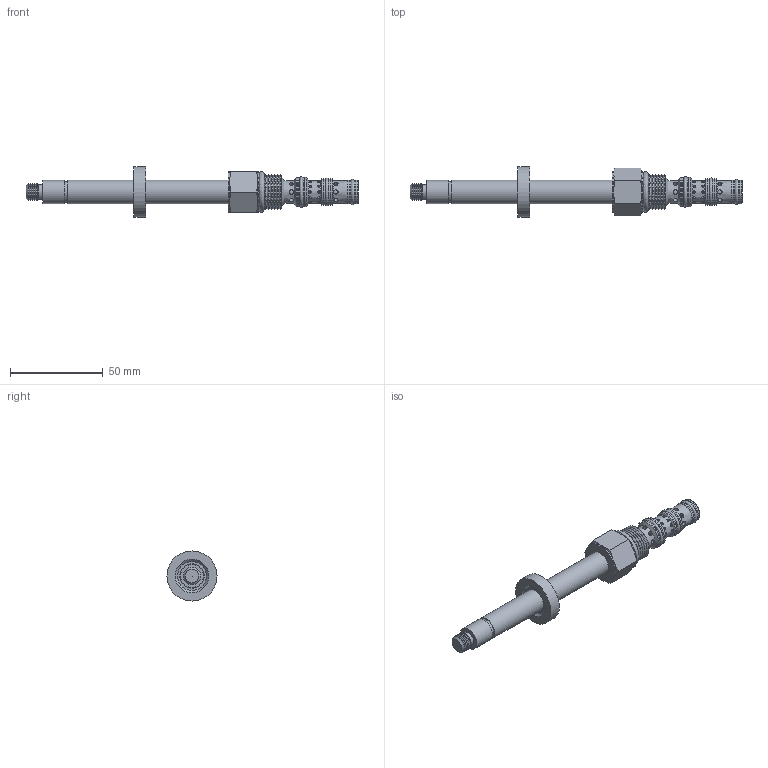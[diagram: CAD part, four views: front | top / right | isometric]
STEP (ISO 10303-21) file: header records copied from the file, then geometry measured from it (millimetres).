
FILE_DESCRIPTION((''),'2;1');
FILE_NAME('U:\sat files\PQS4N00.stp','2009-09-09T09:01:48',('Dan'),(''),'Autodesk Inventor 2009','Autodesk Inventor 2009','');
FILE_SCHEMA(('AUTOMOTIVE_DESIGN { 1 0 10303 214 1 1 1 1 }'));
Length unit declared in the file: inch
Products named in the file (13): PQS4N00; PQS4N001; PQS4N002; PQS4N003; PQS4N004; PQS4N005; PQS4N006; PQS4N007; PQS4N008; PQS4N009; PQS4N0010; PQS4N0011; PQS4N0012
Assembly tree (12 placements, depth 2):
  PQS4N00
    PQS4N001
    PQS4N002
    PQS4N003
    PQS4N004
    PQS4N005
    PQS4N006
    PQS4N007
    PQS4N008
    PQS4N009
    PQS4N0010
    PQS4N0011
    PQS4N0012
Bounding box: 178.75 x 26.99 x 26.99 mm (x, y, z)
Volume: 31414 mm3; surface area: 13865.5 mm2
Topology: 12 solids, 12 shells, 207 faces, 368 edges, 224 vertices
Faces by surface type: bspline 156, cylinder 42, plane 6, cone 3
Full cylindrical faces by diameter (mm): 13.081 x1, 26.988 x1
Entity records: 9148 total; most frequent: CARTESIAN_POINT 6024, ORIENTED_EDGE 468, EDGE_LOOP 389, DIRECTION 388, EDGE_CURVE 234, VERTEX_POINT 211, FACE_OUTER_BOUND 207, ADVANCED_FACE 207
